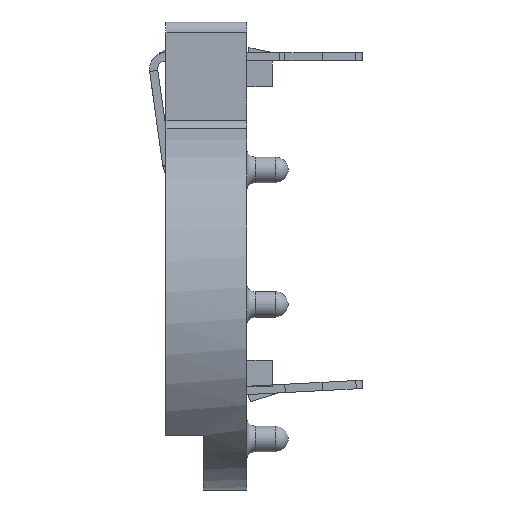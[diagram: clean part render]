
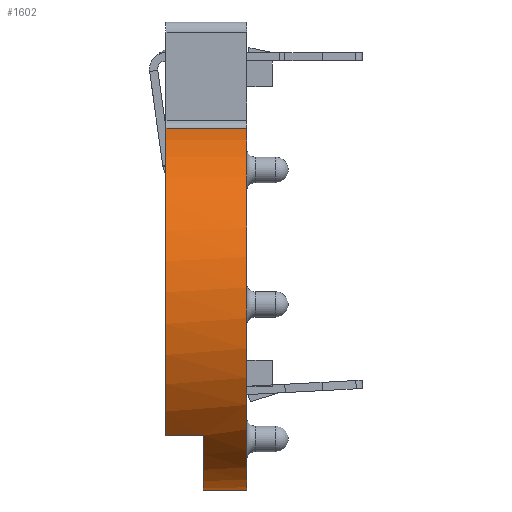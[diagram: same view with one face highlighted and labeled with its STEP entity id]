
A CAD part, left-side view. The second image highlights one B-rep face of the part: STEP entity #1602.
In plain terms, the highlighted cylindrical face has radius 11.379 mm (diameter 22.758 mm), a partial arc.
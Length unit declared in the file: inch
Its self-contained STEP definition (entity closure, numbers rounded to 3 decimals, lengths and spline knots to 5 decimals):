
#26 = AXIS2_PLACEMENT_3D ( 'NONE', #8695, #3580, #9549 ) ;
#413 = DIRECTION ( 'NONE',  ( 0., 0., 1. ) ) ;
#676 = VECTOR ( 'NONE', #10457, 39.37008 ) ;
#707 = ORIENTED_EDGE ( 'NONE', *, *, #11012, .F. ) ;
#966 = VERTEX_POINT ( 'NONE', #4058 ) ;
#1375 = EDGE_CURVE ( 'NONE', #1915, #966, #9856, .T. ) ;
#1602 = ADVANCED_FACE ( 'NONE', ( #10370 ), #9047, .T. ) ;
#1644 = DIRECTION ( 'NONE',  ( 0., -1., 0. ) ) ;
#1915 = VERTEX_POINT ( 'NONE', #3110 ) ;
#2546 = ORIENTED_EDGE ( 'NONE', *, *, #2710, .F. ) ;
#2710 = EDGE_CURVE ( 'NONE', #1915, #4159, #4020, .T. ) ;
#2989 = AXIS2_PLACEMENT_3D ( 'NONE', #3602, #9646, #10450 ) ;
#3102 = DIRECTION ( 'NONE',  ( 0., 1., 0. ) ) ;
#3110 = CARTESIAN_POINT ( 'NONE',  ( -0.35621, 0.17401, -0.43099 ) ) ;
#3252 = VERTEX_POINT ( 'NONE', #9312 ) ;
#3331 = EDGE_CURVE ( 'NONE', #6038, #3252, #7166, .T. ) ;
#3484 = AXIS2_PLACEMENT_3D ( 'NONE', #10590, #5505, #413 ) ;
#3498 = CARTESIAN_POINT ( 'NONE',  ( -0.03943, 0.08401, -0.5622 ) ) ;
#3580 = DIRECTION ( 'NONE',  ( 0., 1., 0. ) ) ;
#3602 = CARTESIAN_POINT ( 'NONE',  ( -0.03943, 0.17401, -0.1142 ) ) ;
#3648 = CARTESIAN_POINT ( 'NONE',  ( -0.03943, 0.17401, -0.5622 ) ) ;
#4020 = CIRCLE ( 'NONE', #6543, 0.448 ) ;
#4058 = CARTESIAN_POINT ( 'NONE',  ( -0.35621, 0.08401, -0.43099 ) ) ;
#4159 = VERTEX_POINT ( 'NONE', #4532 ) ;
#4433 = LINE ( 'NONE', #5030, #8972 ) ;
#4532 = CARTESIAN_POINT ( 'NONE',  ( -0.17823, 0.17401, 0.31175 ) ) ;
#4953 = ORIENTED_EDGE ( 'NONE', *, *, #3331, .T. ) ;
#4972 = CIRCLE ( 'NONE', #26, 0.448 ) ;
#5009 = ORIENTED_EDGE ( 'NONE', *, *, #8852, .F. ) ;
#5030 = CARTESIAN_POINT ( 'NONE',  ( -0.17823, 0.17401, 0.31175 ) ) ;
#5241 = EDGE_LOOP ( 'NONE', ( #5009, #4953, #7729, #707, #2546, #8740 ) ) ;
#5505 = DIRECTION ( 'NONE',  ( 0., 1., 0. ) ) ;
#5528 = CARTESIAN_POINT ( 'NONE',  ( -0.17823, -0.02099, 0.31175 ) ) ;
#6038 = VERTEX_POINT ( 'NONE', #3498 ) ;
#6543 = AXIS2_PLACEMENT_3D ( 'NONE', #8218, #3102, #9068 ) ;
#7166 = LINE ( 'NONE', #3648, #676 ) ;
#7576 = CARTESIAN_POINT ( 'NONE',  ( -0.35621, 0.17401, -0.43099 ) ) ;
#7729 = ORIENTED_EDGE ( 'NONE', *, *, #9585, .T. ) ;
#8218 = CARTESIAN_POINT ( 'NONE',  ( -0.03943, 0.17401, -0.1142 ) ) ;
#8695 = CARTESIAN_POINT ( 'NONE',  ( -0.03943, 0.08401, -0.1142 ) ) ;
#8740 = ORIENTED_EDGE ( 'NONE', *, *, #1375, .T. ) ;
#8852 = EDGE_CURVE ( 'NONE', #6038, #966, #4972, .T. ) ;
#8972 = VECTOR ( 'NONE', #10990, 39.37008 ) ;
#9047 = CYLINDRICAL_SURFACE ( 'NONE', #2989, 0.448 ) ;
#9068 = DIRECTION ( 'NONE',  ( 0., 0., 1. ) ) ;
#9312 = CARTESIAN_POINT ( 'NONE',  ( -0.03943, -0.02099, -0.5622 ) ) ;
#9331 = CIRCLE ( 'NONE', #3484, 0.448 ) ;
#9549 = DIRECTION ( 'NONE',  ( 0., 0., 1. ) ) ;
#9585 = EDGE_CURVE ( 'NONE', #3252, #10270, #9331, .T. ) ;
#9590 = VECTOR ( 'NONE', #1644, 39.37008 ) ;
#9646 = DIRECTION ( 'NONE',  ( 0., -1., 0. ) ) ;
#9856 = LINE ( 'NONE', #7576, #9590 ) ;
#10270 = VERTEX_POINT ( 'NONE', #5528 ) ;
#10370 = FACE_OUTER_BOUND ( 'NONE', #5241, .T. ) ;
#10450 = DIRECTION ( 'NONE',  ( 0., 0., -1. ) ) ;
#10457 = DIRECTION ( 'NONE',  ( 0., -1., 0. ) ) ;
#10590 = CARTESIAN_POINT ( 'NONE',  ( -0.03943, -0.02099, -0.1142 ) ) ;
#10990 = DIRECTION ( 'NONE',  ( 0., -1., 0. ) ) ;
#11012 = EDGE_CURVE ( 'NONE', #4159, #10270, #4433, .T. ) ;
